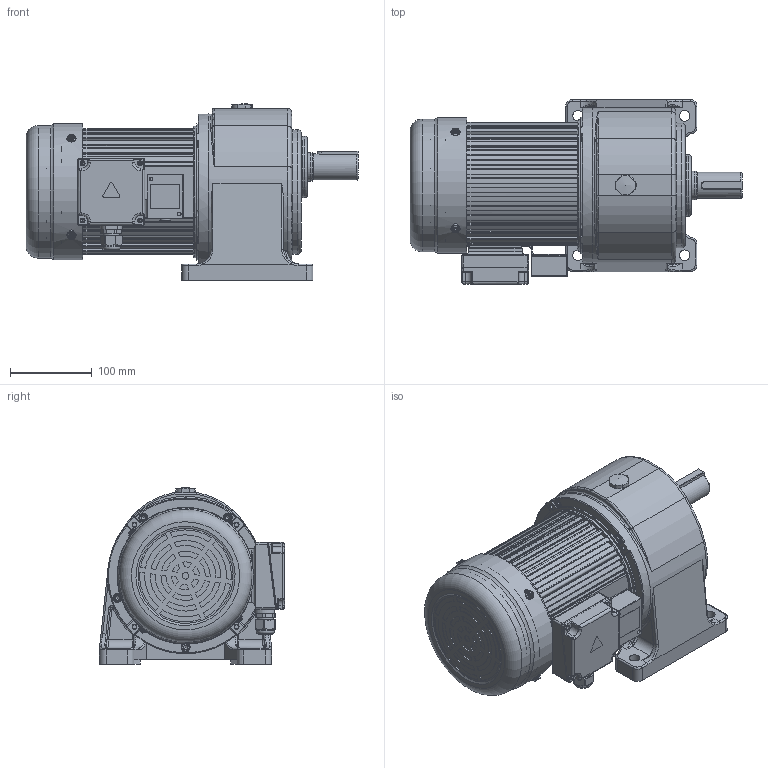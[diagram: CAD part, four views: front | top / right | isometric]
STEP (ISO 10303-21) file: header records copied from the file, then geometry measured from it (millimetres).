
FILE_DESCRIPTION(/* description */ (''),/* implementation_level */ '2;1');
FILE_NAME(/* name */ 'CH32-750-3～200外形多速比带刹车.stp',/* time_stamp */ '2025-05-02T10:29:28+08:00',/* author */ (''),/* organization */ (''),/* preprocessor_version */ 'ST-DEVELOPER v18.102',/* originating_system */ 'SIEMENS PLM Software NX 2027',/* authorisation */ '');
FILE_SCHEMA (('AP203_CONFIGURATION_CONTROLLED_3D_DESIGN_OF_MECHANICAL_PARTS_AND_ASSEMBLIES_MIM_LF { 1 0 10303 403 2 1 2}'));
Length unit declared in the file: millimetre
Products named in the file (1): CH32-750-3～200外形多速比带刹车_
objects
Bounding box: 405 x 225.75 x 215.8 mm (x, y, z)
Volume: 6865161.4 mm3; surface area: 647788.2 mm2
Topology: 22 solids, 22 shells, 4897 faces, 12816 edges, 8140 vertices
Faces by surface type: plane 2636, cylinder 1365, cone 446, torus 212, bspline 97, extrusion 96, sphere 25, revolution 20
Full cylindrical faces by diameter (mm): 1 x1, 1.8 x1, 3 x1, 3.3 x4, 3.5 x1, 4 x1, 4.2 x12, 4.336 x4, 4.5 x2, 4.51 x4, 4.826 x4, 5 x12, 5.795 x5, 6.4 x8, 8 x1, 10 x9, 11 x10, 12.5 x1, 13 x5, 15.76 x1, 16 x3, 16.6 x1, 16.678 x1, 17 x2, 19 x1, 19.5 x1, 20 x5, 21 x1, 22.5 x1, 31.6 x1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
Entity records: 160981 total; most frequent: CARTESIAN_POINT 43800, ORIENTED_EDGE 24910, DIRECTION 23318, EDGE_CURVE 12455, AXIS2_PLACEMENT_3D 8230, VERTEX_POINT 8059, VECTOR 6838, LINE 6742
